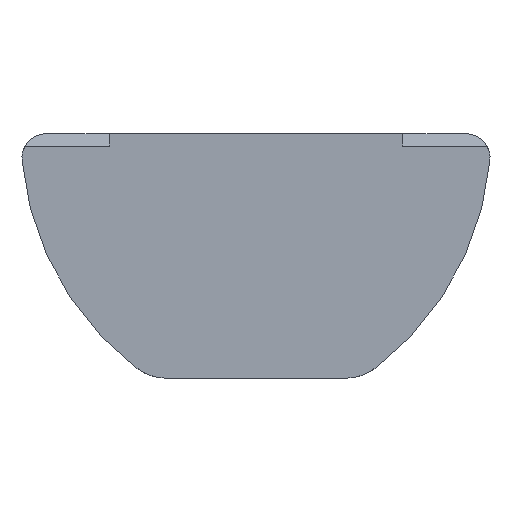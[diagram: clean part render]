
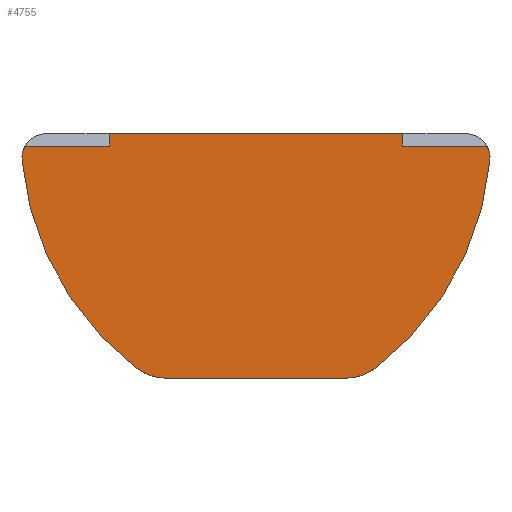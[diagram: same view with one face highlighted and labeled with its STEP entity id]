
A CAD part, front view. The second image highlights one B-rep face of the part: STEP entity #4755.
In plain terms, the highlighted planar face has unit normal (0, -1, 0).
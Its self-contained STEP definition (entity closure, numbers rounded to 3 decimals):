
#102 = VERTEX_POINT ( 'NONE', #4057 ) ;
#121 = PLANE ( 'NONE',  #304 ) ;
#127 = DIRECTION ( 'NONE',  ( -1., 0., 0. ) ) ;
#205 = AXIS2_PLACEMENT_3D ( 'NONE', #4880, #2182, #5338 ) ;
#262 = ORIENTED_EDGE ( 'NONE', *, *, #5361, .F. ) ;
#304 = AXIS2_PLACEMENT_3D ( 'NONE', #1865, #3204, #558 ) ;
#312 = DIRECTION ( 'NONE',  ( 0., 0., -1. ) ) ;
#500 = ORIENTED_EDGE ( 'NONE', *, *, #5792, .T. ) ;
#524 = CARTESIAN_POINT ( 'NONE',  ( -3., -7.8, 0. ) ) ;
#530 = EDGE_CURVE ( 'NONE', #1081, #2739, #4194, .T. ) ;
#544 = ORIENTED_EDGE ( 'NONE', *, *, #530, .T. ) ;
#558 = DIRECTION ( 'NONE',  ( 0., 0., -1. ) ) ;
#620 = VECTOR ( 'NONE', #2520, 1000. ) ;
#688 = VECTOR ( 'NONE', #127, 1000. ) ;
#719 = DIRECTION ( 'NONE',  ( 0., 0., 1. ) ) ;
#742 = LINE ( 'NONE', #2871, #5370 ) ;
#899 = CARTESIAN_POINT ( 'NONE',  ( -3., -7.8, -0.25 ) ) ;
#993 = EDGE_CURVE ( 'NONE', #4772, #2348, #1508, .T. ) ;
#1081 = VERTEX_POINT ( 'NONE', #2239 ) ;
#1084 = DIRECTION ( 'NONE',  ( 0., -1., 0. ) ) ;
#1133 = CARTESIAN_POINT ( 'NONE',  ( 1.831, -7.8, -5. ) ) ;
#1145 = CARTESIAN_POINT ( 'NONE',  ( 4.721, -7.8, -0.25 ) ) ;
#1221 = CARTESIAN_POINT ( 'NONE',  ( -1.831, -7.8, -5. ) ) ;
#1346 = DIRECTION ( 'NONE',  ( 0., -1., 0. ) ) ;
#1446 = EDGE_CURVE ( 'NONE', #4726, #4361, #4033, .T. ) ;
#1453 = VERTEX_POINT ( 'NONE', #899 ) ;
#1508 = CIRCLE ( 'NONE', #205, 1. ) ;
#1595 = LINE ( 'NONE', #2936, #3843 ) ;
#1605 = DIRECTION ( 'NONE',  ( 1., 0., 0. ) ) ;
#1607 = CARTESIAN_POINT ( 'NONE',  ( 3., -7.8, 0. ) ) ;
#1632 = FACE_OUTER_BOUND ( 'NONE', #3194, .T. ) ;
#1690 = AXIS2_PLACEMENT_3D ( 'NONE', #3775, #1084, #4234 ) ;
#1742 = DIRECTION ( 'NONE',  ( 0., -1., 0. ) ) ;
#1753 = VERTEX_POINT ( 'NONE', #4201 ) ;
#1785 = CARTESIAN_POINT ( 'NONE',  ( 3., -7.8, 0. ) ) ;
#1865 = CARTESIAN_POINT ( 'NONE',  ( -4.288, -7.8, -0.5 ) ) ;
#2059 = ORIENTED_EDGE ( 'NONE', *, *, #1446, .T. ) ;
#2146 = CARTESIAN_POINT ( 'NONE',  ( -4.788, -7.8, -0.25 ) ) ;
#2182 = DIRECTION ( 'NONE',  ( 0., -1., 0. ) ) ;
#2211 = EDGE_CURVE ( 'NONE', #1453, #2459, #1595, .T. ) ;
#2239 = CARTESIAN_POINT ( 'NONE',  ( 3., -7.8, -0.25 ) ) ;
#2243 = CARTESIAN_POINT ( 'NONE',  ( 4.288, -7.8, -0.5 ) ) ;
#2348 = VERTEX_POINT ( 'NONE', #1221 ) ;
#2399 = CARTESIAN_POINT ( 'NONE',  ( -4.721, -7.8, -0.25 ) ) ;
#2433 = CIRCLE ( 'NONE', #5375, 0.5 ) ;
#2459 = VERTEX_POINT ( 'NONE', #524 ) ;
#2479 = CARTESIAN_POINT ( 'NONE',  ( 4.786, -7.8, -0.544 ) ) ;
#2520 = DIRECTION ( 'NONE',  ( 0., 0., 1. ) ) ;
#2554 = EDGE_CURVE ( 'NONE', #2917, #1753, #4528, .T. ) ;
#2646 = LINE ( 'NONE', #2146, #4905 ) ;
#2685 = DIRECTION ( 'NONE',  ( 0., 0., -1. ) ) ;
#2738 = ORIENTED_EDGE ( 'NONE', *, *, #5001, .T. ) ;
#2739 = VERTEX_POINT ( 'NONE', #1785 ) ;
#2871 = CARTESIAN_POINT ( 'NONE',  ( -4.288, -7.8, -0.25 ) ) ;
#2917 = VERTEX_POINT ( 'NONE', #2399 ) ;
#2936 = CARTESIAN_POINT ( 'NONE',  ( -3., -7.8, 0. ) ) ;
#2958 = DIRECTION ( 'NONE',  ( 0., -1., 0. ) ) ;
#2994 = EDGE_CURVE ( 'NONE', #2348, #102, #4676, .T. ) ;
#3194 = EDGE_LOOP ( 'NONE', ( #262, #4311, #4847, #3604, #5283, #2738, #2059, #5130, #4110, #544, #500, #5234 ) ) ;
#3204 = DIRECTION ( 'NONE',  ( 0., -1., 0. ) ) ;
#3457 = VECTOR ( 'NONE', #1605, 1000. ) ;
#3604 = ORIENTED_EDGE ( 'NONE', *, *, #993, .T. ) ;
#3748 = EDGE_CURVE ( 'NONE', #5277, #1081, #742, .T. ) ;
#3775 = CARTESIAN_POINT ( 'NONE',  ( -4.288, -7.8, -0.5 ) ) ;
#3843 = VECTOR ( 'NONE', #719, 1000. ) ;
#3944 = CIRCLE ( 'NONE', #4174, 1. ) ;
#4032 = CARTESIAN_POINT ( 'NONE',  ( -1.19, -7.8, -0.016 ) ) ;
#4033 = CIRCLE ( 'NONE', #4405, 6. ) ;
#4057 = CARTESIAN_POINT ( 'NONE',  ( 1.831, -7.8, -5. ) ) ;
#4089 = CARTESIAN_POINT ( 'NONE',  ( 2.435, -7.8, -4.797 ) ) ;
#4110 = ORIENTED_EDGE ( 'NONE', *, *, #3748, .T. ) ;
#4130 = CARTESIAN_POINT ( 'NONE',  ( -2.435, -7.8, -4.797 ) ) ;
#4174 = AXIS2_PLACEMENT_3D ( 'NONE', #4444, #1742, #4906 ) ;
#4194 = LINE ( 'NONE', #1607, #620 ) ;
#4201 = CARTESIAN_POINT ( 'NONE',  ( -4.786, -7.8, -0.544 ) ) ;
#4234 = DIRECTION ( 'NONE',  ( 0., 0., -1. ) ) ;
#4311 = ORIENTED_EDGE ( 'NONE', *, *, #2554, .T. ) ;
#4361 = VERTEX_POINT ( 'NONE', #2479 ) ;
#4405 = AXIS2_PLACEMENT_3D ( 'NONE', #4032, #1346, #4489 ) ;
#4444 = CARTESIAN_POINT ( 'NONE',  ( 1.831, -7.8, -4. ) ) ;
#4489 = DIRECTION ( 'NONE',  ( 0., 0., -1. ) ) ;
#4528 = CIRCLE ( 'NONE', #1690, 0.5 ) ;
#4532 = EDGE_CURVE ( 'NONE', #1753, #4772, #5303, .T. ) ;
#4676 = LINE ( 'NONE', #1133, #3457 ) ;
#4726 = VERTEX_POINT ( 'NONE', #4089 ) ;
#4755 = ADVANCED_FACE ( 'NONE', ( #1632 ), #121, .T. ) ;
#4772 = VERTEX_POINT ( 'NONE', #4130 ) ;
#4827 = DIRECTION ( 'NONE',  ( 1., 0., 0. ) ) ;
#4847 = ORIENTED_EDGE ( 'NONE', *, *, #4532, .T. ) ;
#4880 = CARTESIAN_POINT ( 'NONE',  ( -1.831, -7.8, -4. ) ) ;
#4905 = VECTOR ( 'NONE', #4827, 1000. ) ;
#4906 = DIRECTION ( 'NONE',  ( 0., 0., -1. ) ) ;
#5001 = EDGE_CURVE ( 'NONE', #102, #4726, #3944, .T. ) ;
#5130 = ORIENTED_EDGE ( 'NONE', *, *, #5682, .T. ) ;
#5131 = AXIS2_PLACEMENT_3D ( 'NONE', #5670, #2958, #312 ) ;
#5151 = DIRECTION ( 'NONE',  ( -1., 0., 0. ) ) ;
#5234 = ORIENTED_EDGE ( 'NONE', *, *, #2211, .F. ) ;
#5277 = VERTEX_POINT ( 'NONE', #1145 ) ;
#5283 = ORIENTED_EDGE ( 'NONE', *, *, #2994, .T. ) ;
#5303 = CIRCLE ( 'NONE', #5131, 6. ) ;
#5325 = LINE ( 'NONE', #5478, #688 ) ;
#5338 = DIRECTION ( 'NONE',  ( 0., 0., -1. ) ) ;
#5361 = EDGE_CURVE ( 'NONE', #2917, #1453, #2646, .T. ) ;
#5370 = VECTOR ( 'NONE', #5151, 1000. ) ;
#5375 = AXIS2_PLACEMENT_3D ( 'NONE', #2243, #5395, #2685 ) ;
#5395 = DIRECTION ( 'NONE',  ( 0., -1., 0. ) ) ;
#5478 = CARTESIAN_POINT ( 'NONE',  ( -4.288, -7.8, 0. ) ) ;
#5670 = CARTESIAN_POINT ( 'NONE',  ( 1.19, -7.8, -0.016 ) ) ;
#5682 = EDGE_CURVE ( 'NONE', #4361, #5277, #2433, .T. ) ;
#5792 = EDGE_CURVE ( 'NONE', #2739, #2459, #5325, .T. ) ;
